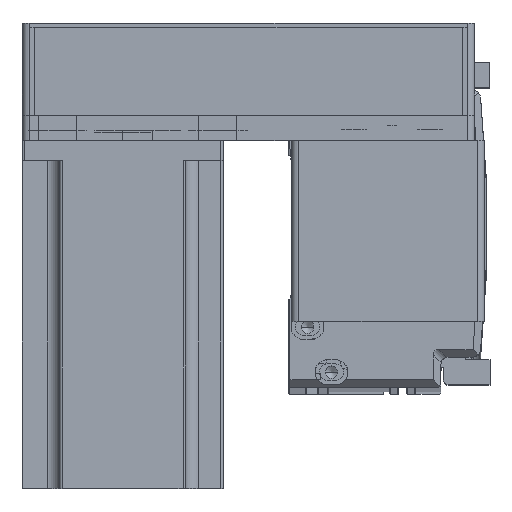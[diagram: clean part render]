
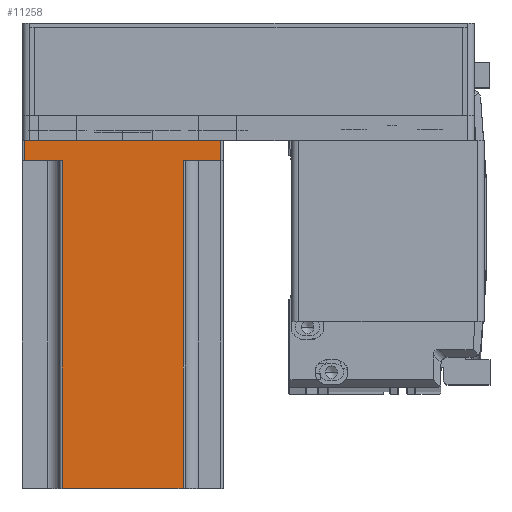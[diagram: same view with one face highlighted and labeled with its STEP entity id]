
A CAD part, top view. The second image highlights one B-rep face of the part: STEP entity #11258.
In plain terms, the highlighted planar face has unit normal (0, 0, 1) as drawn and (0, 1, 0) by its records, which use the part's own axes.
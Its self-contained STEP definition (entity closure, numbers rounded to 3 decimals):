
#1526 = CARTESIAN_POINT ( 'NONE',  ( 40., 40., 0. ) ) ;
#1655 = ORIENTED_EDGE ( 'NONE', *, *, #16316, .T. ) ;
#2027 = DIRECTION ( 'NONE',  ( 0., 0., -1. ) ) ;
#2159 = EDGE_CURVE ( 'NONE', #38325, #18283, #37187, .T. ) ;
#3057 = VECTOR ( 'NONE', #27869, 1000. ) ;
#4885 = ORIENTED_EDGE ( 'NONE', *, *, #23163, .F. ) ;
#5000 = DIRECTION ( 'NONE',  ( 0., 0., 1. ) ) ;
#5281 = EDGE_CURVE ( 'NONE', #15241, #22901, #36704, .T. ) ;
#7057 = DIRECTION ( 'NONE',  ( 0., 0., -1. ) ) ;
#7212 = LINE ( 'NONE', #24538, #17532 ) ;
#7405 = DIRECTION ( 'NONE',  ( 1., 0., 0. ) ) ;
#7447 = CARTESIAN_POINT ( 'NONE',  ( 40., 40., 138.3 ) ) ;
#8872 = VECTOR ( 'NONE', #56328, 1000. ) ;
#10875 = CARTESIAN_POINT ( 'NONE',  ( 24., 40., 138.3 ) ) ;
#11028 = CARTESIAN_POINT ( 'NONE',  ( 39., 40., 8. ) ) ;
#11258 = ADVANCED_FACE ( 'NONE', ( #43464 ), #46878, .F. ) ;
#11927 = VECTOR ( 'NONE', #5000, 1000. ) ;
#12492 = LINE ( 'NONE', #10875, #46157 ) ;
#12711 = DIRECTION ( 'NONE',  ( 1., 0., 0. ) ) ;
#12749 = EDGE_LOOP ( 'NONE', ( #52615, #23426, #28888, #1655, #4885, #37902, #32776, #51443 ) ) ;
#13536 = EDGE_CURVE ( 'NONE', #32885, #42534, #51298, .T. ) ;
#14538 = EDGE_CURVE ( 'NONE', #51651, #15241, #7212, .T. ) ;
#15241 = VERTEX_POINT ( 'NONE', #34800 ) ;
#15627 = EDGE_CURVE ( 'NONE', #22901, #38325, #45594, .T. ) ;
#16316 = EDGE_CURVE ( 'NONE', #32885, #32625, #12492, .T. ) ;
#17532 = VECTOR ( 'NONE', #7057, 1000. ) ;
#18099 = CARTESIAN_POINT ( 'NONE',  ( -39., 40., 138.3 ) ) ;
#18283 = VERTEX_POINT ( 'NONE', #52118 ) ;
#19824 = DIRECTION ( 'NONE',  ( 0., 0., 1. ) ) ;
#20578 = LINE ( 'NONE', #29990, #8872 ) ;
#22901 = VERTEX_POINT ( 'NONE', #44466 ) ;
#23055 = CARTESIAN_POINT ( 'NONE',  ( -39., 40., 8. ) ) ;
#23163 = EDGE_CURVE ( 'NONE', #51651, #32625, #20578, .T. ) ;
#23426 = ORIENTED_EDGE ( 'NONE', *, *, #35602, .T. ) ;
#24538 = CARTESIAN_POINT ( 'NONE',  ( 39., 40., 138.3 ) ) ;
#25094 = CARTESIAN_POINT ( 'NONE',  ( 24., 40., 138.3 ) ) ;
#27869 = DIRECTION ( 'NONE',  ( -1., 0., 0. ) ) ;
#28888 = ORIENTED_EDGE ( 'NONE', *, *, #13536, .F. ) ;
#29301 = CARTESIAN_POINT ( 'NONE',  ( -25., 40., 8. ) ) ;
#29990 = CARTESIAN_POINT ( 'NONE',  ( 25., 40., 8. ) ) ;
#32625 = VERTEX_POINT ( 'NONE', #54108 ) ;
#32776 = ORIENTED_EDGE ( 'NONE', *, *, #5281, .T. ) ;
#32885 = VERTEX_POINT ( 'NONE', #25094 ) ;
#34800 = CARTESIAN_POINT ( 'NONE',  ( 39., 40., 0. ) ) ;
#35602 = EDGE_CURVE ( 'NONE', #18283, #42534, #56724, .T. ) ;
#36704 = LINE ( 'NONE', #1526, #3057 ) ;
#37187 = LINE ( 'NONE', #29301, #38553 ) ;
#37271 = CARTESIAN_POINT ( 'NONE',  ( -24., 40., 138.3 ) ) ;
#37902 = ORIENTED_EDGE ( 'NONE', *, *, #14538, .T. ) ;
#38183 = DIRECTION ( 'NONE',  ( 0., -1., 0. ) ) ;
#38325 = VERTEX_POINT ( 'NONE', #23055 ) ;
#38553 = VECTOR ( 'NONE', #7405, 1000. ) ;
#41923 = AXIS2_PLACEMENT_3D ( 'NONE', #7447, #38183, #12711 ) ;
#42534 = VERTEX_POINT ( 'NONE', #46963 ) ;
#43464 = FACE_OUTER_BOUND ( 'NONE', #12749, .T. ) ;
#44466 = CARTESIAN_POINT ( 'NONE',  ( -39., 40., 0. ) ) ;
#45047 = VECTOR ( 'NONE', #19824, 1000. ) ;
#45594 = LINE ( 'NONE', #18099, #11927 ) ;
#46157 = VECTOR ( 'NONE', #2027, 1000. ) ;
#46878 = PLANE ( 'NONE',  #41923 ) ;
#46963 = CARTESIAN_POINT ( 'NONE',  ( -24., 40., 138.3 ) ) ;
#49928 = VECTOR ( 'NONE', #52478, 1000. ) ;
#51298 = LINE ( 'NONE', #56922, #49928 ) ;
#51443 = ORIENTED_EDGE ( 'NONE', *, *, #15627, .T. ) ;
#51651 = VERTEX_POINT ( 'NONE', #11028 ) ;
#52118 = CARTESIAN_POINT ( 'NONE',  ( -24., 40., 8. ) ) ;
#52478 = DIRECTION ( 'NONE',  ( -1., 0., 0. ) ) ;
#52615 = ORIENTED_EDGE ( 'NONE', *, *, #2159, .T. ) ;
#54108 = CARTESIAN_POINT ( 'NONE',  ( 24., 40., 8. ) ) ;
#56328 = DIRECTION ( 'NONE',  ( -1., 0., 0. ) ) ;
#56724 = LINE ( 'NONE', #37271, #45047 ) ;
#56922 = CARTESIAN_POINT ( 'NONE',  ( 40., 40., 138.3 ) ) ;
